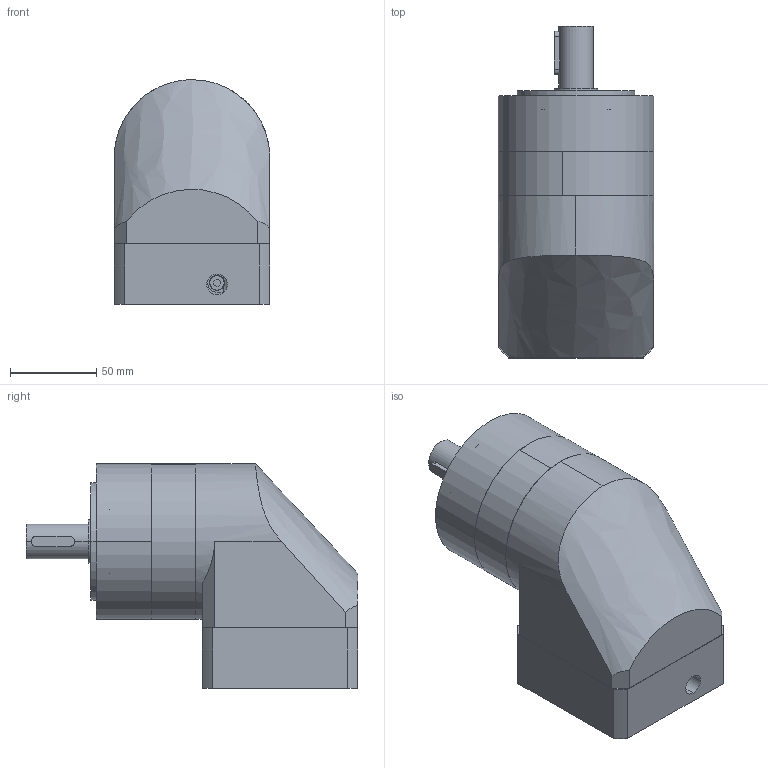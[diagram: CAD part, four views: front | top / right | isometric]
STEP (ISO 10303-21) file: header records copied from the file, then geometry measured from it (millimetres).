
FILE_DESCRIPTION (( 'STEP AP203' ), '1' );
FILE_NAME ('PVEA090-L1-19-70-90.STEP', '2022-07-27T03:53:07', ( 'Windows User' ), ( 'P R C' ), 'SwSTEP 2.0', 'SolidWorks 2016', '' );
FILE_SCHEMA (( 'CONFIG_CONTROL_DESIGN' ));
Length unit declared in the file: millimetre
Products named in the file (9): PVEA090 奻屳唳; PVEA090-蟀諉啣; PVEA090-薊粣ん; M5 x 20; 粣創-3206A 30x62x23.8_2; 邧埴瑩 6x6x25; PVEA090-L1-19-70-90; PVEA090 眊极_揤翉; PVEA090 κｳﾝﾈｦ-ﾓﾅｻｯ_ﾒｻｼｶﾄﾚｳﾝﾈｦ
Assembly tree (8 placements, depth 2):
  PVEA090-L1-19-70-90
    PVEA090 眊极_揤翉
    PVEA090 κｳﾝﾈｦ-ﾓﾅｻｯ_ﾒｻｼｶﾄﾚｳﾝﾈｦ
    PVEA090 奻屳唳
    PVEA090-蟀諉啣
    PVEA090-薊粣ん
    M5 x 20
    粣創-3206A 30x62x23.8_2
    邧埴瑩 6x6x25
Bounding box: 90 x 192 x 130 mm (x, y, z)
Volume: 1095130.7 mm3; surface area: 187568.9 mm2
Topology: 12 solids, 12 shells, 1127 faces, 3234 edges, 2077 vertices
Faces by surface type: plane 583, bspline 290, cylinder 216, cone 38
Entity records: 47793 total; most frequent: CARTESIAN_POINT 19521, ORIENTED_EDGE 6220, DIRECTION 4832, EDGE_CURVE 3110, VERTEX_POINT 2077, VECTOR 1744, LINE 1744, AXIS2_PLACEMENT_3D 1544
